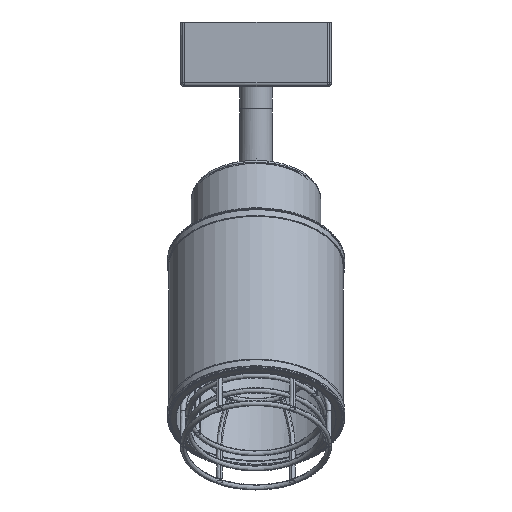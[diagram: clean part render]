
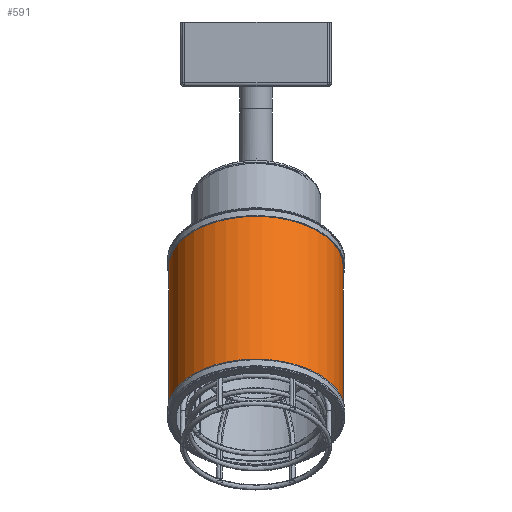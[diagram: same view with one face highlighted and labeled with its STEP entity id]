
A CAD part, left-side view. The second image highlights one B-rep face of the part: STEP entity #591.
In plain terms, the highlighted cylindrical face has radius 40.3 mm (diameter 80.6 mm), a partial arc.
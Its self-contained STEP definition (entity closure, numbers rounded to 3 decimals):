
#591=ADVANCED_FACE('',(#1079),#6549,.T.);
#1079=FACE_OUTER_BOUND('',#1591,.T.);
#1591=EDGE_LOOP('',(#2864,#2865,#2866,#2867));
#2864=ORIENTED_EDGE('',*,*,#4303,.T.);
#2865=ORIENTED_EDGE('',*,*,#4300,.T.);
#2866=ORIENTED_EDGE('',*,*,#4304,.F.);
#2867=ORIENTED_EDGE('',*,*,#4302,.F.);
#4300=EDGE_CURVE('',#5873,#5874,#5218,.T.);
#4302=EDGE_CURVE('',#5875,#5876,#5220,.T.);
#4303=EDGE_CURVE('',#5875,#5873,#5221,.T.);
#4304=EDGE_CURVE('',#5876,#5874,#5222,.T.);
#5218=(
BOUNDED_CURVE()
B_SPLINE_CURVE(1,(#14099,#14100),.UNSPECIFIED.,.F.,.F.)
B_SPLINE_CURVE_WITH_KNOTS((2,2),(0.,90.),.UNSPECIFIED.)
CURVE()
GEOMETRIC_REPRESENTATION_ITEM()
RATIONAL_B_SPLINE_CURVE((1.,1.))
REPRESENTATION_ITEM('')
);
#5220=(
BOUNDED_CURVE()
B_SPLINE_CURVE(1,(#14106,#14107),.UNSPECIFIED.,.F.,.F.)
B_SPLINE_CURVE_WITH_KNOTS((2,2),(0.,90.),.UNSPECIFIED.)
CURVE()
GEOMETRIC_REPRESENTATION_ITEM()
RATIONAL_B_SPLINE_CURVE((1.,1.))
REPRESENTATION_ITEM('')
);
#5221=(
BOUNDED_CURVE()
B_SPLINE_CURVE(2,(#14108,#14109,#14110,#14111,#14112),.UNSPECIFIED.,.F.,
 .F.)
B_SPLINE_CURVE_WITH_KNOTS((3,2,3),(-126.606,-63.303,
0.),.UNSPECIFIED.)
CURVE()
GEOMETRIC_REPRESENTATION_ITEM()
RATIONAL_B_SPLINE_CURVE((1.,0.707,1.,0.707,1.))
REPRESENTATION_ITEM('')
);
#5222=(
BOUNDED_CURVE()
B_SPLINE_CURVE(2,(#14113,#14114,#14115,#14116,#14117),.UNSPECIFIED.,.F.,
 .F.)
B_SPLINE_CURVE_WITH_KNOTS((3,2,3),(-126.606,-63.303,
0.),.UNSPECIFIED.)
CURVE()
GEOMETRIC_REPRESENTATION_ITEM()
RATIONAL_B_SPLINE_CURVE((1.,0.707,1.,0.707,1.))
REPRESENTATION_ITEM('')
);
#5873=VERTEX_POINT('',#14086);
#5874=VERTEX_POINT('',#14087);
#5875=VERTEX_POINT('',#14088);
#5876=VERTEX_POINT('',#14089);
#6549=CYLINDRICAL_SURFACE('',#6852,40.3);
#6852=AXIS2_PLACEMENT_3D('',#14043,#7119,$);
#7119=DIRECTION('',(-0.577,0.,-0.817));
#14043=CARTESIAN_POINT('',(-336.996,211.,-10.328));
#14086=CARTESIAN_POINT('',(-311.045,251.3,26.436));
#14087=CARTESIAN_POINT('',(-362.947,251.3,-47.091));
#14088=CARTESIAN_POINT('',(-311.045,170.7,26.436));
#14089=CARTESIAN_POINT('',(-362.947,170.7,-47.091));
#14099=CARTESIAN_POINT('',(-311.045,251.3,26.436));
#14100=CARTESIAN_POINT('',(-362.947,251.3,-47.091));
#14106=CARTESIAN_POINT('',(-311.045,170.7,26.436));
#14107=CARTESIAN_POINT('',(-362.947,170.7,-47.091));
#14108=CARTESIAN_POINT('',(-311.045,170.7,26.436));
#14109=CARTESIAN_POINT('',(-343.969,170.7,49.676));
#14110=CARTESIAN_POINT('',(-343.969,211.,49.676));
#14111=CARTESIAN_POINT('',(-343.969,251.3,49.676));
#14112=CARTESIAN_POINT('',(-311.045,251.3,26.436));
#14113=CARTESIAN_POINT('',(-362.947,170.7,-47.091));
#14114=CARTESIAN_POINT('',(-395.87,170.7,-23.851));
#14115=CARTESIAN_POINT('',(-395.87,211.,-23.851));
#14116=CARTESIAN_POINT('',(-395.87,251.3,-23.851));
#14117=CARTESIAN_POINT('',(-362.947,251.3,-47.091));
